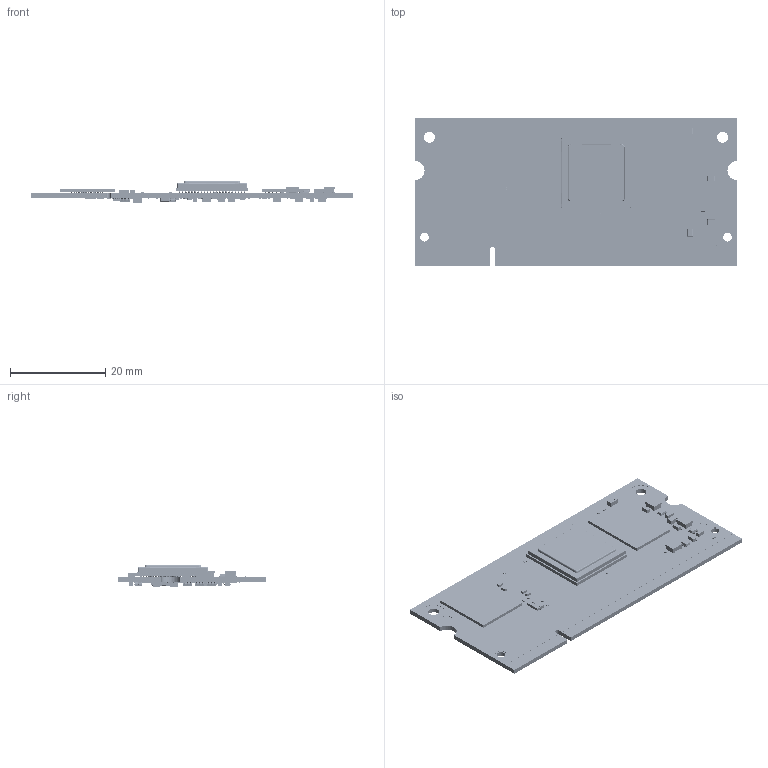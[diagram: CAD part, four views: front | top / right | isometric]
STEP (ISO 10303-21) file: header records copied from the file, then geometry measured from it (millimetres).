
FILE_DESCRIPTION(('STEP AP214'),'1');
FILE_NAME('cm4s.stp','2025-04-11T10:57:02',(' '),(' '),'Spatial InterOp 3D',' ',' ');
FILE_SCHEMA(('AUTOMOTIVE_DESIGN { 1 0 10303 214 1 1 1 1 }'));
Length unit declared in the file: millimetre
Products named in the file (279): U1; BCM2711noheat; ComponentsTop; L1; Coilcraft-PFL2512; L2; L10; capc; CapacitorContacts; CapacitorMainBody; generic_capc2012x125.step; C175; C176; generic_capc0603x30.step; C93; C259; resc; ResistorContacts; ResistorBlackLayer; ResistorMainBody; generic_resc0603x23.step; R60; R59; R65; R25; R35; R71; R81; R72; R114; R118; R32; generic_capc1608x80.step; C252; C257; C258; C260; C262; U17; (Unsaved)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
Assembly tree (456 placements, depth 7):
  rpi-cm4s-r2c
    Components
      ComponentsTop
        U1
          BCM2711noheat
        L1
          Coilcraft-PFL2512
        L2
          Coilcraft-PFL2512
        L10
          Coilcraft-PFL2512
        C175
          generic_capc2012x125.step
            capc
              CapacitorContacts
              CapacitorMainBody
        C176
          generic_capc2012x125.step
            capc
              CapacitorContacts
              CapacitorMainBody
        C93
          generic_capc0603x30.step
            capc
              CapacitorContacts
              CapacitorMainBody
        C259
          generic_capc0603x30.step
            capc
              CapacitorContacts
              CapacitorMainBody
        R60
          generic_resc0603x23.step
            resc
              ResistorContacts
              ResistorBlackLayer
              ResistorMainBody
        R59
          generic_resc0603x23.step
            resc
              ResistorContacts
              ResistorBlackLayer
              ResistorMainBody
        R65
          generic_resc0603x23.step
            resc
              ResistorContacts
              ResistorBlackLayer
              ResistorMainBody
        R25
          generic_resc0603x23.step
            resc
              ResistorContacts
              ResistorBlackLayer
              ResistorMainBody
        R35
          generic_resc0603x23.step
            resc
              ResistorContacts
              ResistorBlackLayer
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Bounding box: 67.6 x 31 x 4.57 mm (x, y, z)
Volume: 2793.3 mm3; surface area: 14116.2 mm2
Topology: 609 solids, 609 shells, 16713 faces, 42247 edges, 24762 vertices
Faces by surface type: plane 7917, cylinder 5230, sphere 3362, bspline 184, torus 20
Entity records: 266784 total; most frequent: CARTESIAN_POINT 43017, DIRECTION 42866, ORIENTED_EDGE 37552, EDGE_CURVE 18776, AXIS2_PLACEMENT_3D 16683, VERTEX_POINT 12640, EDGE_LOOP 10482, LINE 9500
